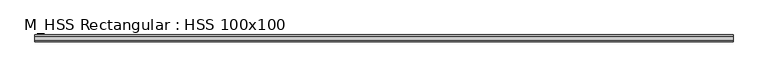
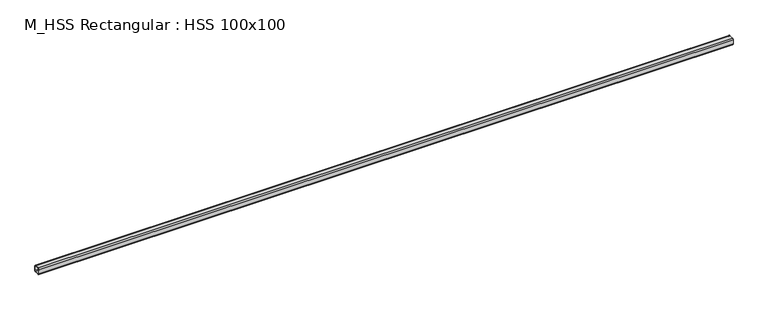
"""IFC4 building model written with IfcOpenShell, lengths in millimetres: beam geometry, M_HSS Rectangular : HSS 100x100."""

from ifc_helpers import new_model, si_unit, point, frame, frame_2d, origin, place, context, project, spatial, polyline, circle_curve, trimmed, segment, composite_curve, outline, extrude, source, transform, mapped, element, save


def m_hss_rectangular_hss_100x100_c8b4e19b(model_context):
    return source(origin(), model_context, "Body", "SweptSolid", [
        extrude(outline(composite_curve([segment(polyline([(50.0, 30.94), (50.0, -30.94)]), True, "CONTINUOUS"), segment(trimmed(circle_curve(frame_2d((30.94, -30.94)), 19.06), [point((50.0, -30.94))], [point((30.94, -50.0))], False, "CARTESIAN"), True, "CONTINUOUS"), segment(polyline([(30.94, -50.0), (-30.94, -50.0)]), True, "CONTINUOUS"), segment(trimmed(circle_curve(frame_2d((-30.94, -30.94)), 19.06), [point((-30.94, -50.0))], [point((-50.0, -30.94))], False, "CARTESIAN"), True, "CONTINUOUS"), segment(polyline([(-50.0, -30.94), (-50.0, 30.94)]), True, "CONTINUOUS"), segment(trimmed(circle_curve(frame_2d((-30.94, 30.94)), 19.06), [point((-50.0, 30.94))], [point((-30.94, 50.0))], False, "CARTESIAN"), True, "CONTINUOUS"), segment(polyline([(-30.94, 50.0), (30.94, 50.0)]), True, "CONTINUOUS"), segment(trimmed(circle_curve(frame_2d((30.94, 30.94)), 19.06), [point((30.94, 50.0))], [point((50.0, 30.94))], False, "CARTESIAN"), True, "CONTINUOUS")], self_intersect=False), holes=[composite_curve([segment(trimmed(circle_curve(frame_2d((-30.94, 30.94)), 9.53), [point((-30.94, 40.47))], [point((-40.47, 30.94))], True, "CARTESIAN"), True, "CONTINUOUS"), segment(polyline([(-40.47, 30.94), (-40.47, -30.94)]), True, "CONTINUOUS"), segment(trimmed(circle_curve(frame_2d((-30.94, -30.94)), 9.53), [point((-40.47, -30.94))], [point((-30.94, -40.47))], True, "CARTESIAN"), True, "CONTINUOUS"), segment(polyline([(-30.94, -40.47), (30.94, -40.47)]), True, "CONTINUOUS"), segment(trimmed(circle_curve(frame_2d((30.94, -30.94)), 9.53), [point((30.94, -40.47))], [point((40.47, -30.94))], True, "CARTESIAN"), True, "CONTINUOUS"), segment(polyline([(40.47, -30.94), (40.47, 30.94)]), True, "CONTINUOUS"), segment(trimmed(circle_curve(frame_2d((30.94, 30.94)), 9.53), [point((40.47, 30.94))], [point((30.94, 40.47))], True, "CARTESIAN"), True, "CONTINUOUS"), segment(polyline([(30.94, 40.47), (-30.94, 40.47)]), True, "CONTINUOUS")], self_intersect=False)]), frame((-5122.45, 0.0, 0.0), z_axis=(1.0, 0.0, 0.0), x_axis=(0.0, 1.0, 0.0)), (0.0, 0.0, 1.0), 10307.6),
    ])


if __name__ == "__main__":
    model = new_model("IFC4")
    model_context = context("Model", 3, world=origin())
    ifc_project = project(units=[si_unit("LENGTHUNIT", "METRE", prefix="MILLI")], contexts=[model_context])
    site = spatial("IfcSite", under=ifc_project)
    building = spatial("IfcBuilding", under=site)
    placement = place(None, origin())
    m_hss_rectangular_hss_100x100_shape = m_hss_rectangular_hss_100x100_c8b4e19b(model_context)
    element("IfcBeam", 1, ObjectType="M_HSS Rectangular : HSS 100x100", at=placement, inside=building, context=model_context, shape_type="MappedRepresentation", body=[
        mapped(m_hss_rectangular_hss_100x100_shape, transform((0.0, 0.0, 0.0), x_axis=(1.0, 0.0, 0.0), y_axis=(0.0, 1.0, 0.0), z_axis=(0.0, 0.0, 1.0))),
    ])
    save(model, "model.ifc")
